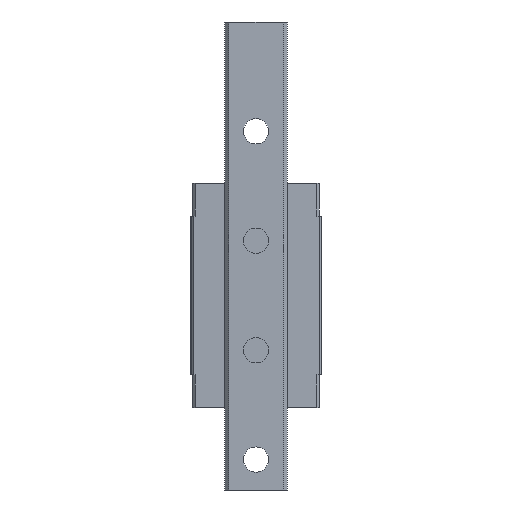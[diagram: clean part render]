
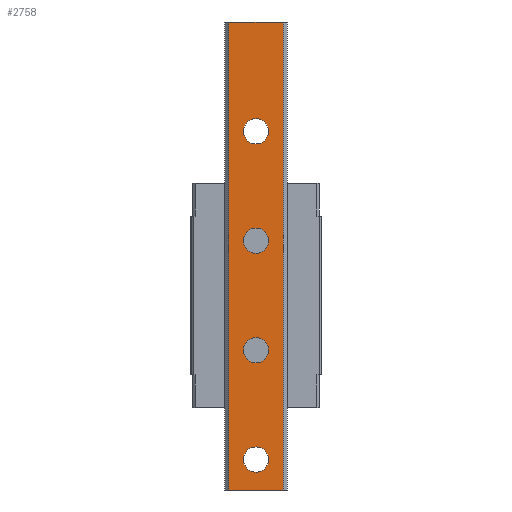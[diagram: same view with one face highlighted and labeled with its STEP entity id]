
A CAD part, front view. The second image highlights one B-rep face of the part: STEP entity #2758.
In plain terms, the highlighted planar face has unit normal (0, -1, 0).
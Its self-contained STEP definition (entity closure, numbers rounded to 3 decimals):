
#4 = VERTEX_POINT ( 'NONE', #3828 ) ;
#67 = AXIS2_PLACEMENT_3D ( 'NONE', #2676, #947, #3234 ) ;
#104 = DIRECTION ( 'NONE',  ( 0., 0., -1. ) ) ;
#163 = EDGE_CURVE ( 'NONE', #5040, #5172, #620, .T. ) ;
#279 = VERTEX_POINT ( 'NONE', #2016 ) ;
#290 = VECTOR ( 'NONE', #2768, 1000. ) ;
#390 = VERTEX_POINT ( 'NONE', #2101 ) ;
#400 = ORIENTED_EDGE ( 'NONE', *, *, #3475, .T. ) ;
#509 = EDGE_CURVE ( 'NONE', #2488, #2761, #1983, .T. ) ;
#594 = FACE_BOUND ( 'NONE', #1298, .T. ) ;
#608 = LINE ( 'NONE', #5613, #2147 ) ;
#620 = CIRCLE ( 'NONE', #1398, 4.61 ) ;
#784 = CARTESIAN_POINT ( 'NONE',  ( -10., -22., -100.138 ) ) ;
#857 = CARTESIAN_POINT ( 'NONE',  ( 0., -22., -44.39 ) ) ;
#877 = ORIENTED_EDGE ( 'NONE', *, *, #4962, .T. ) ;
#893 = DIRECTION ( 'NONE',  ( 0., 0., 1. ) ) ;
#909 = VECTOR ( 'NONE', #5406, 1000. ) ;
#922 = DIRECTION ( 'NONE',  ( 0., 0., 1. ) ) ;
#942 = DIRECTION ( 'NONE',  ( 0., 0., 1. ) ) ;
#947 = DIRECTION ( 'NONE',  ( 0., 1., 0. ) ) ;
#1208 = VERTEX_POINT ( 'NONE', #857 ) ;
#1245 = CARTESIAN_POINT ( 'NONE',  ( -10., -22., 71. ) ) ;
#1298 = EDGE_LOOP ( 'NONE', ( #4980, #400 ) ) ;
#1311 = CARTESIAN_POINT ( 'NONE',  ( 0., -22., -9. ) ) ;
#1364 = CIRCLE ( 'NONE', #2141, 4.61 ) ;
#1395 = LINE ( 'NONE', #3252, #4161 ) ;
#1398 = AXIS2_PLACEMENT_3D ( 'NONE', #5241, #2989, #3498 ) ;
#1537 = FACE_BOUND ( 'NONE', #3444, .T. ) ;
#1631 = EDGE_CURVE ( 'NONE', #5392, #279, #1856, .T. ) ;
#1760 = DIRECTION ( 'NONE',  ( 0., 1., 0. ) ) ;
#1816 = AXIS2_PLACEMENT_3D ( 'NONE', #1311, #2708, #922 ) ;
#1856 = CIRCLE ( 'NONE', #5886, 4.61 ) ;
#1935 = FACE_OUTER_BOUND ( 'NONE', #5166, .T. ) ;
#1959 = ORIENTED_EDGE ( 'NONE', *, *, #5879, .T. ) ;
#1961 = EDGE_CURVE ( 'NONE', #4, #2431, #4637, .T. ) ;
#1983 = CIRCLE ( 'NONE', #3917, 4.61 ) ;
#2016 = CARTESIAN_POINT ( 'NONE',  ( 0., -22., -93.61 ) ) ;
#2022 = AXIS2_PLACEMENT_3D ( 'NONE', #3161, #3190, #4508 ) ;
#2061 = VERTEX_POINT ( 'NONE', #2281 ) ;
#2101 = CARTESIAN_POINT ( 'NONE',  ( 0., -22., -53.61 ) ) ;
#2141 = AXIS2_PLACEMENT_3D ( 'NONE', #3233, #4159, #893 ) ;
#2147 = VECTOR ( 'NONE', #4249, 1000. ) ;
#2172 = ORIENTED_EDGE ( 'NONE', *, *, #1961, .T. ) ;
#2281 = CARTESIAN_POINT ( 'NONE',  ( 10., -22., -100.138 ) ) ;
#2371 = DIRECTION ( 'NONE',  ( 0., 1., 0. ) ) ;
#2431 = VERTEX_POINT ( 'NONE', #784 ) ;
#2488 = VERTEX_POINT ( 'NONE', #4898 ) ;
#2514 = ORIENTED_EDGE ( 'NONE', *, *, #4848, .T. ) ;
#2620 = CARTESIAN_POINT ( 'NONE',  ( 0., -22., 26.39 ) ) ;
#2655 = DIRECTION ( 'NONE',  ( 0., 1., 0. ) ) ;
#2676 = CARTESIAN_POINT ( 'NONE',  ( 0., -22., 31. ) ) ;
#2708 = DIRECTION ( 'NONE',  ( 0., 1., 0. ) ) ;
#2758 = ADVANCED_FACE ( 'NONE', ( #1537, #2841, #3329, #594, #1935 ), #2902, .T. ) ;
#2761 = VERTEX_POINT ( 'NONE', #3394 ) ;
#2768 = DIRECTION ( 'NONE',  ( 0., 0., -1. ) ) ;
#2841 = FACE_BOUND ( 'NONE', #4419, .T. ) ;
#2902 = PLANE ( 'NONE',  #2972 ) ;
#2972 = AXIS2_PLACEMENT_3D ( 'NONE', #4743, #4685, #104 ) ;
#2989 = DIRECTION ( 'NONE',  ( 0., 1., 0. ) ) ;
#3161 = CARTESIAN_POINT ( 'NONE',  ( 0., -22., -89. ) ) ;
#3171 = CARTESIAN_POINT ( 'NONE',  ( 10., -22., 71. ) ) ;
#3190 = DIRECTION ( 'NONE',  ( 0., 1., 0. ) ) ;
#3201 = AXIS2_PLACEMENT_3D ( 'NONE', #5204, #2371, #3346 ) ;
#3233 = CARTESIAN_POINT ( 'NONE',  ( 0., -22., -49. ) ) ;
#3234 = DIRECTION ( 'NONE',  ( 0., 0., 1. ) ) ;
#3252 = CARTESIAN_POINT ( 'NONE',  ( 10., -22., -129. ) ) ;
#3329 = FACE_BOUND ( 'NONE', #4690, .T. ) ;
#3346 = DIRECTION ( 'NONE',  ( 0., 0., 1. ) ) ;
#3394 = CARTESIAN_POINT ( 'NONE',  ( 0., -22., -4.39 ) ) ;
#3444 = EDGE_LOOP ( 'NONE', ( #5862, #4087 ) ) ;
#3475 = EDGE_CURVE ( 'NONE', #279, #5392, #4346, .T. ) ;
#3498 = DIRECTION ( 'NONE',  ( 0., 0., 1. ) ) ;
#3657 = ORIENTED_EDGE ( 'NONE', *, *, #4707, .T. ) ;
#3673 = CIRCLE ( 'NONE', #3201, 4.61 ) ;
#3749 = CIRCLE ( 'NONE', #67, 4.61 ) ;
#3828 = CARTESIAN_POINT ( 'NONE',  ( -10., -22., 71. ) ) ;
#3832 = CIRCLE ( 'NONE', #1816, 4.61 ) ;
#3867 = CARTESIAN_POINT ( 'NONE',  ( 0., -22., -89. ) ) ;
#3917 = AXIS2_PLACEMENT_3D ( 'NONE', #5428, #1760, #4156 ) ;
#4087 = ORIENTED_EDGE ( 'NONE', *, *, #4783, .T. ) ;
#4100 = CARTESIAN_POINT ( 'NONE',  ( -10., -22., -129. ) ) ;
#4156 = DIRECTION ( 'NONE',  ( 0., 0., 1. ) ) ;
#4159 = DIRECTION ( 'NONE',  ( 0., 1., 0. ) ) ;
#4161 = VECTOR ( 'NONE', #942, 1000. ) ;
#4206 = VERTEX_POINT ( 'NONE', #3171 ) ;
#4215 = CARTESIAN_POINT ( 'NONE',  ( 0., -22., 35.61 ) ) ;
#4249 = DIRECTION ( 'NONE',  ( 1., 0., 0. ) ) ;
#4337 = EDGE_CURVE ( 'NONE', #4206, #4, #5375, .T. ) ;
#4346 = CIRCLE ( 'NONE', #2022, 4.61 ) ;
#4419 = EDGE_LOOP ( 'NONE', ( #2514, #1959 ) ) ;
#4444 = ORIENTED_EDGE ( 'NONE', *, *, #5978, .T. ) ;
#4508 = DIRECTION ( 'NONE',  ( 0., 0., 1. ) ) ;
#4637 = LINE ( 'NONE', #4100, #290 ) ;
#4685 = DIRECTION ( 'NONE',  ( 0., -1., 0. ) ) ;
#4690 = EDGE_LOOP ( 'NONE', ( #3657, #5309 ) ) ;
#4707 = EDGE_CURVE ( 'NONE', #2761, #2488, #3832, .T. ) ;
#4743 = CARTESIAN_POINT ( 'NONE',  ( -10., -22., -129. ) ) ;
#4783 = EDGE_CURVE ( 'NONE', #5172, #5040, #3749, .T. ) ;
#4848 = EDGE_CURVE ( 'NONE', #1208, #390, #3673, .T. ) ;
#4898 = CARTESIAN_POINT ( 'NONE',  ( 0., -22., -13.61 ) ) ;
#4956 = DIRECTION ( 'NONE',  ( 0., 0., 1. ) ) ;
#4962 = EDGE_CURVE ( 'NONE', #2061, #4206, #1395, .T. ) ;
#4980 = ORIENTED_EDGE ( 'NONE', *, *, #1631, .T. ) ;
#5040 = VERTEX_POINT ( 'NONE', #4215 ) ;
#5166 = EDGE_LOOP ( 'NONE', ( #4444, #877, #5277, #2172 ) ) ;
#5172 = VERTEX_POINT ( 'NONE', #2620 ) ;
#5204 = CARTESIAN_POINT ( 'NONE',  ( 0., -22., -49. ) ) ;
#5241 = CARTESIAN_POINT ( 'NONE',  ( 0., -22., 31. ) ) ;
#5277 = ORIENTED_EDGE ( 'NONE', *, *, #4337, .T. ) ;
#5309 = ORIENTED_EDGE ( 'NONE', *, *, #509, .T. ) ;
#5375 = LINE ( 'NONE', #1245, #909 ) ;
#5392 = VERTEX_POINT ( 'NONE', #5681 ) ;
#5406 = DIRECTION ( 'NONE',  ( -1., 0., 0. ) ) ;
#5428 = CARTESIAN_POINT ( 'NONE',  ( 0., -22., -9. ) ) ;
#5613 = CARTESIAN_POINT ( 'NONE',  ( -10., -22., -100.138 ) ) ;
#5681 = CARTESIAN_POINT ( 'NONE',  ( 0., -22., -84.39 ) ) ;
#5862 = ORIENTED_EDGE ( 'NONE', *, *, #163, .T. ) ;
#5879 = EDGE_CURVE ( 'NONE', #390, #1208, #1364, .T. ) ;
#5886 = AXIS2_PLACEMENT_3D ( 'NONE', #3867, #2655, #4956 ) ;
#5978 = EDGE_CURVE ( 'NONE', #2431, #2061, #608, .T. ) ;
